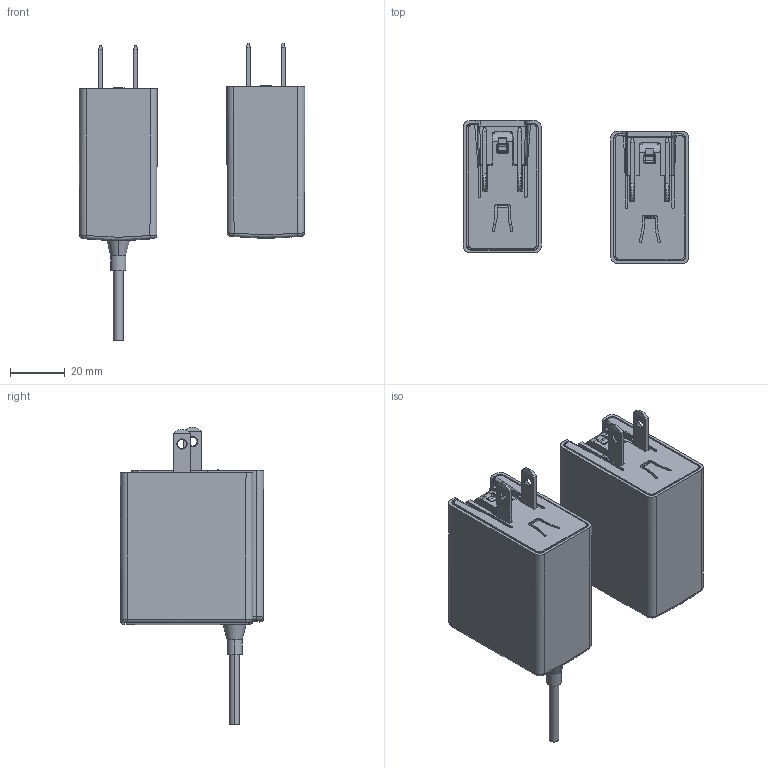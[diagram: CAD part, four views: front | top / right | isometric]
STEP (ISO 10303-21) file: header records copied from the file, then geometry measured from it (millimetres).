
FILE_DESCRIPTION(('Creo Elements/Direct Modeling STEP Export'),'2;1');
FILE_NAME('NGE12U.stp','2025-09-30T10:41:58',(''),(''),'Creo Elements/Direct Modeling STEP processor for AP214 (Solid Model)','Creo Elements/Direct Modeling 19.0G 27-Nov-2017 (C) Parametric Technology GmbH','');
FILE_SCHEMA(('AUTOMOTIVE_DESIGN { 1 0 10303 214 1 1 1 1 }'));
Length unit declared in the file: millimetre
Products named in the file (31): WW_1_1_PRT_PRT-216460.PRT; WW_1_1_PRT_PRT-209920.PRT; WW_1_1_PRT_PRT-203380.PRT; USB-103LC____6_1_PRT.PRT; USB-103LC____5_1_PRT.PRT; USB-103LC____4_1_PRT.PRT; USB-103LC____3_1_PRT.PRT; USB-103LC____2_1_PRT.PRT; USB-103LC____1_1_1_PRT.PRT; BOARD.PRT; ADMI219C5045N6QM_2_PRT_PRT_PRT.PRT; ADMI219C5045N6QM_2_PRT_P-353730.PRT; ADMI219C5045N6QM_2_PRT_P-347660.PRT; ADMI219C5045N6QM_2_PRT_P-341590.PRT; ADMI219C5045N6QM_2_PRT_P-335520.PRT; ADMI219C5045N6QM_1_PRT_PRT_PRT.PRT
Assembly tree (15 placements, depth 2):
  WW_1_1_PRT_PRT-216460.PRT
    WW_1_1_PRT_PRT-216460.PRT
  WW_1_1_PRT_PRT-209920.PRT
    WW_1_1_PRT_PRT-209920.PRT
  WW_1_1_PRT_PRT-203380.PRT
    WW_1_1_PRT_PRT-203380.PRT
  USB-103LC____6_1_PRT.PRT
    USB-103LC____6_1_PRT.PRT
  USB-103LC____5_1_PRT.PRT
    USB-103LC____5_1_PRT.PRT
Bounding box: 82.07 x 52.13 x 108.42 mm (x, y, z)
Volume: 49528.7 mm3; surface area: 58597.9 mm2
Topology: 16 solids, 16 shells, 1803 faces, 5203 edges, 3438 vertices
Faces by surface type: plane 1082, cylinder 560, cone 99, bspline 38, torus 24
Entity records: 67718 total; most frequent: CARTESIAN_POINT 15266, ORIENTED_EDGE 10398, DIRECTION 9196, EDGE_CURVE 5199, VECTOR 3602, LINE 3602, VERTEX_POINT 3438, AXIS2_PLACEMENT_3D 2797
